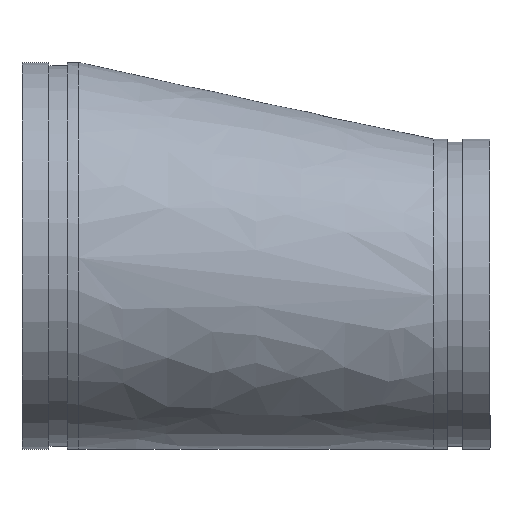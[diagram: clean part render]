
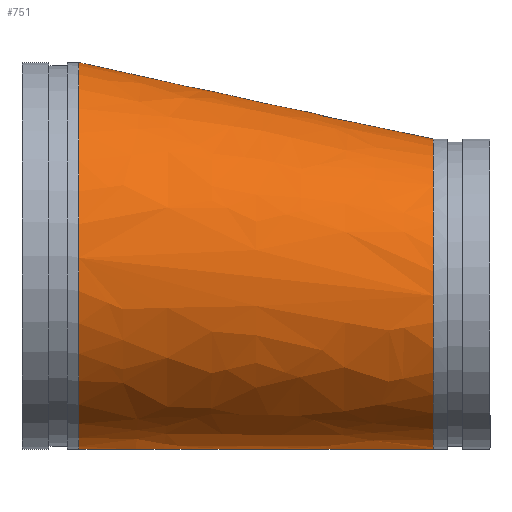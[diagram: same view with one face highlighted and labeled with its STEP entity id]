
A CAD part, top view. The second image highlights one B-rep face of the part: STEP entity #751.
In plain terms, the highlighted free-form (B-spline) face has degree [1, 2] with [2, 9] control points.
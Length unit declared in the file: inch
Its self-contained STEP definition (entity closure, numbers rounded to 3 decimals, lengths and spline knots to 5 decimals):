
#58=B_SPLINE_CURVE_WITH_KNOTS('',1,(#1409,#1410),.UNSPECIFIED.,.F.,.F.,
(2,2),(-1.85277,-0.00122),.UNSPECIFIED.);
#60=(
BOUNDED_SURFACE()
B_SPLINE_SURFACE(1,2,((#1387,#1388,#1389,#1390,#1391,#1392,#1393,#1394,
#1395),(#1396,#1397,#1398,#1399,#1400,#1401,#1402,#1403,#1404)),
 .UNSPECIFIED.,.F.,.T.,.F.)
B_SPLINE_SURFACE_WITH_KNOTS((2,2),(3,2,2,2,3),(-0.10893,1.93744),
(-3.14159,-1.5708,0.,1.5708,3.14159),
 .UNSPECIFIED.)
GEOMETRIC_REPRESENTATION_ITEM()
RATIONAL_B_SPLINE_SURFACE(((1.,0.707,1.,0.707,1.,
0.707,1.,0.707,1.),(1.,0.707,1.,0.707,
1.,0.707,1.,0.707,1.)))
REPRESENTATION_ITEM('')
SURFACE()
);
#128=FACE_OUTER_BOUND('',#160,.T.);
#160=EDGE_LOOP('',(#622,#623,#624,#625,#626,#627,#628));
#247=CIRCLE('',#870,4.3125);
#248=CIRCLE('',#871,5.375);
#249=CIRCLE('',#872,5.375);
#250=CIRCLE('',#873,4.3125);
#251=CIRCLE('',#874,4.3125);
#332=VERTEX_POINT('',#1405);
#333=VERTEX_POINT('',#1406);
#334=VERTEX_POINT('',#1408);
#335=VERTEX_POINT('',#1411);
#336=VERTEX_POINT('',#1414);
#436=EDGE_CURVE('',#332,#333,#247,.T.);
#437=EDGE_CURVE('',#333,#334,#58,.T.);
#438=EDGE_CURVE('',#334,#335,#248,.T.);
#439=EDGE_CURVE('',#335,#334,#249,.T.);
#440=EDGE_CURVE('',#333,#336,#250,.T.);
#441=EDGE_CURVE('',#336,#332,#251,.T.);
#622=ORIENTED_EDGE('',*,*,#436,.T.);
#623=ORIENTED_EDGE('',*,*,#437,.T.);
#624=ORIENTED_EDGE('',*,*,#438,.T.);
#625=ORIENTED_EDGE('',*,*,#439,.T.);
#626=ORIENTED_EDGE('',*,*,#437,.F.);
#627=ORIENTED_EDGE('',*,*,#440,.T.);
#628=ORIENTED_EDGE('',*,*,#441,.T.);
#751=ADVANCED_FACE('',(#128),#60,.F.);
#870=AXIS2_PLACEMENT_3D('',#1407,#1104,#1105);
#871=AXIS2_PLACEMENT_3D('',#1412,#1106,#1107);
#872=AXIS2_PLACEMENT_3D('',#1413,#1108,#1109);
#873=AXIS2_PLACEMENT_3D('',#1415,#1110,#1111);
#874=AXIS2_PLACEMENT_3D('',#1416,#1112,#1113);
#1104=DIRECTION('center_axis',(-1.,0.,0.));
#1105=DIRECTION('ref_axis',(0.,-1.,0.));
#1106=DIRECTION('center_axis',(1.,0.,0.));
#1107=DIRECTION('ref_axis',(0.,1.,0.));
#1108=DIRECTION('center_axis',(1.,0.,0.));
#1109=DIRECTION('ref_axis',(0.,1.,0.));
#1110=DIRECTION('center_axis',(-1.,0.,0.));
#1111=DIRECTION('ref_axis',(0.,-1.,0.));
#1112=DIRECTION('center_axis',(-1.,0.,0.));
#1113=DIRECTION('ref_axis',(0.,-1.,0.));
#1387=CARTESIAN_POINT('Ctrl Pts',(0.99462,0.00124,
5.43785));
#1388=CARTESIAN_POINT('Ctrl Pts',(0.42072,-5.375,5.43785));
#1389=CARTESIAN_POINT('Ctrl Pts',(0.42072,-5.375,0.));
#1390=CARTESIAN_POINT('Ctrl Pts',(0.42072,-5.375,-5.43785));
#1391=CARTESIAN_POINT('Ctrl Pts',(0.99462,0.00124,
-5.43785));
#1392=CARTESIAN_POINT('Ctrl Pts',(1.56852,5.37748,-5.43785));
#1393=CARTESIAN_POINT('Ctrl Pts',(1.56852,5.37748,0.));
#1394=CARTESIAN_POINT('Ctrl Pts',(1.56852,5.37748,5.43785));
#1395=CARTESIAN_POINT('Ctrl Pts',(0.99462,0.00124,
5.43785));
#1396=CARTESIAN_POINT('Ctrl Pts',(11.86997,-1.15967,4.26364));
#1397=CARTESIAN_POINT('Ctrl Pts',(11.42,-5.375,4.26364));
#1398=CARTESIAN_POINT('Ctrl Pts',(11.42,-5.375,0.));
#1399=CARTESIAN_POINT('Ctrl Pts',(11.42,-5.375,-4.26364));
#1400=CARTESIAN_POINT('Ctrl Pts',(11.86997,-1.15967,-4.26364));
#1401=CARTESIAN_POINT('Ctrl Pts',(12.31995,3.05565,-4.26364));
#1402=CARTESIAN_POINT('Ctrl Pts',(12.31995,3.05565,0.));
#1403=CARTESIAN_POINT('Ctrl Pts',(12.31995,3.05565,4.26364));
#1404=CARTESIAN_POINT('Ctrl Pts',(11.86997,-1.15967,4.26364));
#1405=CARTESIAN_POINT('',(11.42,-5.375,0.));
#1406=CARTESIAN_POINT('',(11.42,-1.11164,4.31222));
#1407=CARTESIAN_POINT('Origin',(11.42,-1.0625,0.));
#1408=CARTESIAN_POINT('',(1.58,-0.06125,5.37465));
#1409=CARTESIAN_POINT('Ctrl Pts',(11.42,-1.11164,4.31222));
#1410=CARTESIAN_POINT('Ctrl Pts',(1.58,-0.06125,
5.37465));
#1411=CARTESIAN_POINT('',(1.58,-5.375,0.));
#1412=CARTESIAN_POINT('Origin',(1.58,0.,0.));
#1413=CARTESIAN_POINT('Origin',(1.58,0.,0.));
#1414=CARTESIAN_POINT('',(11.42,3.25,0.));
#1415=CARTESIAN_POINT('Origin',(11.42,-1.0625,0.));
#1416=CARTESIAN_POINT('Origin',(11.42,-1.0625,0.));
